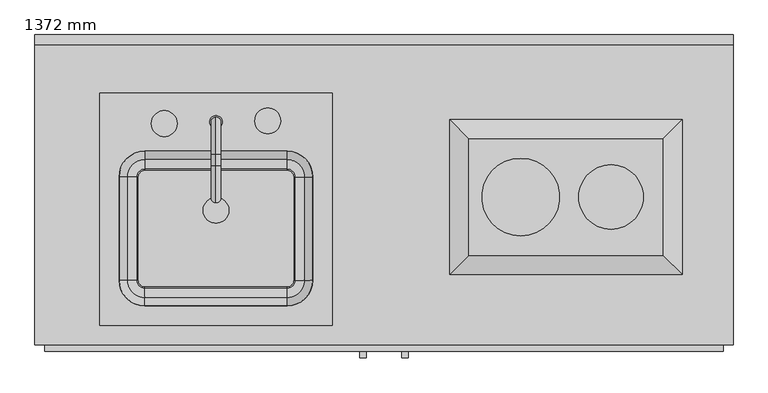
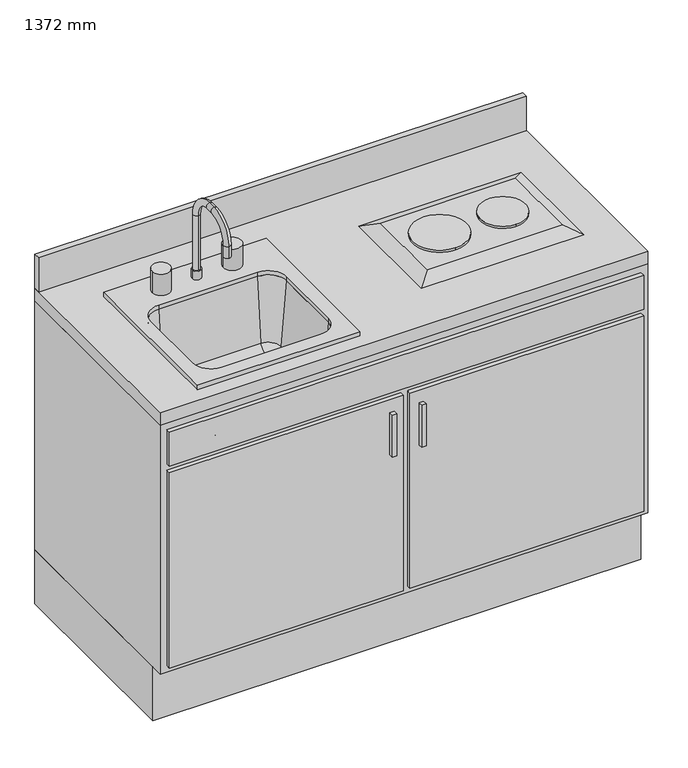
"""IFC4 building model written with IfcOpenShell, lengths in millimetres: proxy geometry, Kitchenette - Petite : 1372 mm."""

from ifc_helpers import new_model, si_unit, point, frame, frame_2d, origin, origin_with_axes, place, context, project, spatial, polyline, circle_curve, ellipse_curve, trimmed, segment, composite_curve, outline, extrude, faceted_brep, source, transform, mapped, element, save
from ifc_brep_helpers import plane_surface, cylinder_surface, revolved_surface, advanced_brep


def proxy_1372_mm_bcc99ffe(model_context):
    return source(origin(), model_context, "Body", "SolidModel", [
        extrude(outline(composite_curve([segment(trimmed(circle_curve(frame_2d((287.2252049, -319.05)), 76.2), [point((287.2252049, -242.85))], [point((287.2252049, -395.25))], False, "CARTESIAN"), True, "CONTINUOUS"), segment(trimmed(circle_curve(frame_2d((287.2252049, -319.05)), 76.2), [point((287.2252049, -395.25))], [point((287.2252049, -242.85))], False, "CARTESIAN"), True, "CONTINUOUS")], self_intersect=False)), frame((0.0, 0.0, 957.15), z_axis=(0.0, 0.0, 1.0), x_axis=(1.0, 0.0, 0.0)), (0.0, 0.0, 1.0), 6.35),
        extrude(outline(composite_curve([segment(trimmed(circle_curve(frame_2d((464.8252049, -319.05)), 63.5), [point((464.8252049, -255.55))], [point((464.8252049, -382.55))], False, "CARTESIAN"), True, "CONTINUOUS"), segment(trimmed(circle_curve(frame_2d((464.8252049, -319.05)), 63.5), [point((464.8252049, -382.55))], [point((464.8252049, -255.55))], False, "CARTESIAN"), True, "CONTINUOUS")], self_intersect=False)), frame((0.0, 0.0, 957.15), z_axis=(0.0, 0.0, 1.0), x_axis=(1.0, 0.0, 0.0)), (0.0, 0.0, 1.0), 6.35),
        faceted_brep([(185.6252049, -204.65, 957.15), (185.6252049, -433.55, 957.15), (566.4252049, -433.55, 957.15), (566.4252049, -204.65, 957.15), (147.5252049, -166.55, 938.1), (604.5252049, -166.55, 938.1), (604.5252049, -471.55, 938.1), (147.5252049, -471.55, 938.1)], [[[0, 1, 2, 3]], [[4, 5, 6, 7]], [[4, 7, 1, 0]], [[7, 6, 2, 1]], [[6, 5, 3, 2]], [[5, 4, 0, 3]]]),
        extrude(outline(composite_curve([segment(trimmed(circle_curve(frame_2d((-311.4622951, -171.45)), 12.7), [point((-324.1622951, -171.45))], [point((-298.7622951, -171.45))], False, "CARTESIAN"), True, "CONTINUOUS"), segment(trimmed(circle_curve(frame_2d((-311.4622951, -171.45)), 12.7), [point((-298.7622951, -171.45))], [point((-324.1622951, -171.45))], False, "CARTESIAN"), True, "CONTINUOUS")], self_intersect=False)), frame((0.0, 0.0, 950.8), z_axis=(0.0, 0.0, 1.0), x_axis=(1.0, 0.0, 0.0)), (0.0, 0.0, 1.0), 25.4),
        advanced_brep(
        [(-311.4622951, -161.925, 950.8), (-311.4622951, -180.975, 950.8), (-311.4622951, -161.925, 1138.125), (-311.4622951, -180.975, 1138.125), (-311.4622951, -234.95, 1192.1), (-311.4622951, -234.95, 1211.15), (-311.4622951, -257.175, 1211.15), (-311.4622951, -257.175, 1192.1), (-311.4622951, -311.15, 1138.125), (-311.4622951, -330.2, 1138.125), (-311.4622951, -330.2, 1103.2), (-311.4622951, -311.15, 1103.2)],
        [
            (0, 1, circle_curve(frame((-311.4622951, -171.45, 950.8), z_axis=(0.0, 0.0, -1.0), x_axis=(0.0, -1.0, 0.0)), 9.525)),
            (1, 0, circle_curve(frame((-311.4622951, -171.45, 950.8), z_axis=(0.0, 0.0, -1.0), x_axis=(0.0, -1.0, 0.0)), 9.525)),
            (0, 2),
            (2, 3, circle_curve(frame((-311.4622951, -171.45, 1138.125), z_axis=(0.0, 0.0, -1.0), x_axis=(0.0, -1.0, 0.0)), 9.525)),
            (3, 1),
            (3, 2, circle_curve(frame((-311.4622951, -171.45, 1138.125), z_axis=(0.0, 0.0, -1.0), x_axis=(0.0, -1.0, 0.0)), 9.525)),
            (4, 3, circle_curve(frame((-311.4622951, -234.95, 1138.125), z_axis=(-1.0, 0.0, 0.0), x_axis=(0.0, 1.0, 0.0)), 53.975)),
            (2, 5, circle_curve(frame((-311.4622951, -234.95, 1138.125), z_axis=(1.0, 0.0, 0.0), x_axis=(0.0, 1.0, 0.0)), 73.025)),
            (5, 4, circle_curve(frame((-311.4622951, -234.95, 1201.625), z_axis=(0.0, 1.0, 0.0), x_axis=(0.0, 0.0, -1.0)), 9.525)),
            (4, 5, circle_curve(frame((-311.4622951, -234.95, 1201.625), z_axis=(0.0, 1.0, 0.0), x_axis=(0.0, 0.0, -1.0)), 9.525)),
            (5, 6),
            (6, 7, circle_curve(frame((-311.4622951, -257.175, 1201.625), z_axis=(0.0, 1.0, 0.0), x_axis=(0.0, 0.0, -1.0)), 9.525)),
            (7, 4),
            (7, 6, circle_curve(frame((-311.4622951, -257.175, 1201.625), z_axis=(0.0, 1.0, 0.0), x_axis=(0.0, 0.0, -1.0)), 9.525)),
            (8, 7, circle_curve(frame((-311.4622951, -257.175, 1138.125), z_axis=(-1.0, 0.0, 0.0), x_axis=(0.0, 0.0, 1.0)), 53.975)),
            (6, 9, circle_curve(frame((-311.4622951, -257.175, 1138.125), z_axis=(1.0, 0.0, 0.0), x_axis=(0.0, 0.0, 1.0)), 73.025)),
            (9, 8, circle_curve(frame((-311.4622951, -320.675, 1138.125), z_axis=(0.0, 0.0, 1.0), x_axis=(0.0, 1.0, 0.0)), 9.525)),
            (8, 9, circle_curve(frame((-311.4622951, -320.675, 1138.125), z_axis=(0.0, 0.0, 1.0), x_axis=(0.0, 1.0, 0.0)), 9.525)),
            (10, 11, circle_curve(frame((-311.4622951, -320.675, 1103.2), z_axis=(0.0, 0.0, -1.0), x_axis=(0.0, 1.0, 0.0)), 9.525)),
            (11, 10, circle_curve(frame((-311.4622951, -320.675, 1103.2), z_axis=(0.0, 0.0, -1.0), x_axis=(0.0, 1.0, 0.0)), 9.525)),
            (9, 10),
            (11, 8),
        ],
        [
            plane_surface(frame((-311.4622951, -180.975, 950.8), z_axis=(0.0, 0.0, -1.0), x_axis=(1.0, 0.0, 0.0))),
            cylinder_surface(frame((-311.4622951, -171.45, 950.8), z_axis=(0.0, 0.0, -1.0), x_axis=(0.0, -1.0, 0.0)), 9.525),
            revolved_surface(trimmed(ellipse_curve(frame((-311.4622951, -171.45, 1138.125), z_axis=(0.0, 0.0, -1.0), x_axis=(0.0, -1.0, 0.0)), 9.525, 9.525), [point((-311.4622951, -161.925, 1138.125))], [point((-311.4622951, -180.975, 1138.125))], True, "CARTESIAN"), (-311.4622951, -234.95, 1138.125), (1.0, 0.0, 0.0)),
            revolved_surface(trimmed(ellipse_curve(frame((-311.4622951, -171.45, 1138.125), z_axis=(0.0, 0.0, -1.0), x_axis=(0.0, -1.0, 0.0)), 9.525, 9.525), [point((-311.4622951, -180.975, 1138.125))], [point((-311.4622951, -161.925, 1138.125))], True, "CARTESIAN"), (-311.4622951, -234.95, 1138.125), (1.0, 0.0, 0.0)),
            cylinder_surface(frame((-311.4622951, -234.95, 1201.625), z_axis=(0.0, 1.0, 0.0), x_axis=(0.0, 0.0, -1.0)), 9.525),
            revolved_surface(trimmed(ellipse_curve(frame((-311.4622951, -257.175, 1201.625), z_axis=(0.0, 1.0, 0.0), x_axis=(0.0, 0.0, -1.0)), 9.525, 9.525), [point((-311.4622951, -257.175, 1211.15))], [point((-311.4622951, -257.175, 1192.1))], True, "CARTESIAN"), (-311.4622951, -257.175, 1138.125), (1.0, 0.0, 0.0)),
            revolved_surface(trimmed(ellipse_curve(frame((-311.4622951, -257.175, 1201.625), z_axis=(0.0, 1.0, 0.0), x_axis=(0.0, 0.0, -1.0)), 9.525, 9.525), [point((-311.4622951, -257.175, 1192.1))], [point((-311.4622951, -257.175, 1211.15))], True, "CARTESIAN"), (-311.4622951, -257.175, 1138.125), (1.0, 0.0, 0.0)),
            plane_surface(frame((-311.4622951, -330.2, 1103.2), z_axis=(0.0, 0.0, -1.0), x_axis=(-1.0, 0.0, 0.0))),
            cylinder_surface(frame((-311.4622951, -320.675, 1138.125), z_axis=(0.0, 0.0, 1.0), x_axis=(0.0, 1.0, 0.0)), 9.525),
        ],
        [
            (0, [[1, 2]]),
            (1, [[-1, 3, 4, 5]]),
            (1, [[-2, -5, 6, -3]]),
            (2, [[7, -4, 8, 9]]),
            (3, [[-8, -6, -7, 10]]),
            (4, [[-9, 11, 12, 13]]),
            (4, [[-10, -13, 14, -11]]),
            (5, [[15, -12, 16, 17]]),
            (6, [[-16, -14, -15, 18]]),
            (7, [[19, 20]]),
            (8, [[-17, 21, -20, 22]]),
            (8, [[-18, -22, -19, -21]]),
        ],
    ),
        extrude(outline(composite_curve([segment(trimmed(circle_curve(frame_2d((-413.0622951, -174.5287936)), 25.4), [point((-438.4622951, -174.5287936))], [point((-387.6622951, -174.5287936))], False, "CARTESIAN"), True, "CONTINUOUS"), segment(trimmed(circle_curve(frame_2d((-413.0622951, -174.5287936)), 25.4), [point((-387.6622951, -174.5287936))], [point((-438.4622951, -174.5287936))], False, "CARTESIAN"), True, "CONTINUOUS")], self_intersect=False)), frame((0.0, 0.0, 950.8), z_axis=(0.0, 0.0, 1.0), x_axis=(1.0, 0.0, 0.0)), (0.0, 0.0, 1.0), 63.5),
        extrude(outline(composite_curve([segment(trimmed(circle_curve(frame_2d((-209.8622951, -169.3320688)), 25.4), [point((-235.2622951, -169.3320688))], [point((-184.4622951, -169.3320688))], False, "CARTESIAN"), True, "CONTINUOUS"), segment(trimmed(circle_curve(frame_2d((-209.8622951, -169.3320688)), 25.4), [point((-184.4622951, -169.3320688))], [point((-235.2622951, -169.3320688))], False, "CARTESIAN"), True, "CONTINUOUS")], self_intersect=False)), frame((0.0, 0.0, 950.8), z_axis=(0.0, 0.0, 1.0), x_axis=(1.0, 0.0, 0.0)), (0.0, 0.0, 1.0), 63.5),
        extrude(outline(composite_curve([segment(trimmed(circle_curve(frame_2d((-171.7622951, -279.4)), 12.7), [point((-171.7622951, -266.7))], [point((-159.0622951, -279.4))], False, "CARTESIAN"), True, "CONTINUOUS"), segment(polyline([(-159.0622951, -279.4), (-159.0622951, -482.6)]), True, "CONTINUOUS"), segment(trimmed(circle_curve(frame_2d((-171.7622951, -482.6)), 12.7), [point((-159.0622951, -482.6))], [point((-171.7622951, -495.3))], False, "CARTESIAN"), True, "CONTINUOUS"), segment(polyline([(-171.7622951, -495.3), (-451.1622951, -495.3)]), True, "CONTINUOUS"), segment(trimmed(circle_curve(frame_2d((-451.1622951, -482.6)), 12.7), [point((-451.1622951, -495.3))], [point((-463.8622951, -482.6))], False, "CARTESIAN"), True, "CONTINUOUS"), segment(polyline([(-463.8622951, -482.6), (-463.8622951, -279.4)]), True, "CONTINUOUS"), segment(trimmed(circle_curve(frame_2d((-451.1622951, -279.4)), 12.7), [point((-463.8622951, -279.4))], [point((-451.1622951, -266.7))], False, "CARTESIAN"), True, "CONTINUOUS"), segment(polyline([(-451.1622951, -266.7), (-171.7622951, -266.7)]), True, "CONTINUOUS")], self_intersect=False), holes=[composite_curve([segment(trimmed(circle_curve(frame_2d((-311.4622951, -345.2454011)), 25.4), [point((-336.8622951, -345.2454011))], [point((-286.0622951, -345.2454011))], True, "CARTESIAN"), True, "CONTINUOUS"), segment(trimmed(circle_curve(frame_2d((-311.4622951, -345.2454011)), 25.4), [point((-286.0622951, -345.2454011))], [point((-336.8622951, -345.2454011))], True, "CARTESIAN"), True, "CONTINUOUS")], self_intersect=False)]), frame((0.0, 0.0, 722.2), z_axis=(0.0, 0.0, 1.0), x_axis=(1.0, 0.0, 0.0)), (0.0, 0.0, 1.0), 9.525),
        advanced_brep(
        [(-114.6122951, -279.4, 722.2), (-171.7622951, -222.25, 722.2), (-171.7622951, -222.25, 938.1), (-114.6122951, -279.4, 938.1), (-159.0622951, -279.4, 722.2), (-171.7622951, -266.7, 722.2), (-159.0622951, -279.4, 731.725), (-171.7622951, -266.7, 731.725), (-156.4738769, -279.4, 731.725), (-171.7622951, -264.1115818, 731.725), (-137.4963679, -279.4, 749.1146831), (-171.7622951, -245.1340728, 749.1146831), (-120.9622951, -279.4, 938.1), (-171.7622951, -228.6, 938.1), (-114.6122951, -482.6, 938.1), (-114.6122951, -482.6, 722.2), (-159.0622951, -482.6, 722.2), (-159.0622951, -482.6, 731.725), (-156.4738769, -482.6, 731.725), (-137.4963679, -482.6, 749.1146831), (-120.9622951, -482.6, 938.1), (-171.7622951, -539.75, 722.2), (-171.7622951, -539.75, 938.1), (-171.7622951, -495.3, 722.2), (-171.7622951, -495.3, 731.725), (-171.7622951, -497.8884182, 731.725), (-171.7622951, -516.8659272, 749.1146831), (-171.7622951, -533.4, 938.1), (-451.1622951, -539.75, 938.1), (-451.1622951, -539.75, 722.2), (-451.1622951, -495.3, 722.2), (-451.1622951, -495.3, 731.725), (-451.1622951, -497.8884182, 731.725), (-451.1622951, -516.8659272, 749.1146831), (-451.1622951, -533.4, 938.1), (-508.3122951, -482.6, 722.2), (-508.3122951, -482.6, 938.1), (-463.8622951, -482.6, 722.2), (-463.8622951, -482.6, 731.725), (-466.4507133, -482.6, 731.725), (-485.4282223, -482.6, 749.1146831), (-501.9622951, -482.6, 938.1), (-508.3122951, -279.4, 938.1), (-508.3122951, -279.4, 722.2), (-463.8622951, -279.4, 722.2), (-463.8622951, -279.4, 731.725), (-466.4507133, -279.4, 731.725), (-485.4282223, -279.4, 749.1146831), (-501.9622951, -279.4, 938.1), (-451.1622951, -222.25, 722.2), (-451.1622951, -222.25, 938.1), (-451.1622951, -266.7, 722.2), (-451.1622951, -266.7, 731.725), (-451.1622951, -264.1115818, 731.725), (-451.1622951, -245.1340728, 749.1146831), (-451.1622951, -228.6, 938.1)],
        [
            (0, 1, circle_curve(frame((-171.7622951, -279.4, 722.2), z_axis=(0.0, 0.0, 1.0), x_axis=(0.0, 1.0, 0.0)), 57.15)),
            (1, 2),
            (2, 3, circle_curve(frame((-171.7622951, -279.4, 938.1), z_axis=(0.0, 0.0, -1.0), x_axis=(0.0, 1.0, 0.0)), 57.15)),
            (3, 0),
            (4, 5, circle_curve(frame((-171.7622951, -279.4, 722.2), z_axis=(0.0, 0.0, 1.0), x_axis=(0.0, 1.0, 0.0)), 12.7)),
            (5, 1),
            (0, 4),
            (6, 7, circle_curve(frame((-171.7622951, -279.4, 731.725), z_axis=(0.0, 0.0, 1.0), x_axis=(0.0, 1.0, 0.0)), 12.7)),
            (7, 5),
            (4, 6),
            (8, 9, circle_curve(frame((-171.7622951, -279.4, 731.725), z_axis=(0.0, 0.0, 1.0), x_axis=(0.0, 1.0, 0.0)), 15.2884182)),
            (9, 7),
            (6, 8),
            (10, 11, circle_curve(frame((-171.7622951, -279.4, 749.1146831), z_axis=(0.0, 0.0, 1.0), x_axis=(0.0, 1.0, 0.0)), 34.2659272)),
            (11, 9, circle_curve(frame((-171.7622951, -264.1115818, 750.775), z_axis=(-1.0, 0.0, 0.0), x_axis=(0.0, 1.0, 0.0)), 19.05)),
            (8, 10, circle_curve(frame((-156.4738769, -279.4, 750.775), z_axis=(0.0, -1.0, 0.0), x_axis=(1.0, 0.0, 0.0)), 19.05)),
            (12, 13, circle_curve(frame((-171.7622951, -279.4, 938.1), z_axis=(0.0, 0.0, 1.0), x_axis=(0.0, 1.0, 0.0)), 50.8)),
            (13, 11),
            (10, 12),
            (2, 13),
            (12, 3),
            (3, 14),
            (14, 15),
            (15, 0),
            (15, 16),
            (16, 4),
            (16, 17),
            (17, 6),
            (17, 18),
            (18, 8),
            (18, 19, circle_curve(frame((-156.4738769, -482.6, 750.775), z_axis=(0.0, -1.0, 0.0), x_axis=(1.0, 0.0, 0.0)), 19.05)),
            (19, 10),
            (19, 20),
            (20, 12),
            (20, 14),
            (21, 15, circle_curve(frame((-171.7622951, -482.6, 722.2), z_axis=(0.0, 0.0, 1.0), x_axis=(1.0, 0.0, 0.0)), 57.15)),
            (14, 22, circle_curve(frame((-171.7622951, -482.6, 938.1), z_axis=(0.0, 0.0, -1.0), x_axis=(1.0, 0.0, 0.0)), 57.15)),
            (22, 21),
            (23, 16, circle_curve(frame((-171.7622951, -482.6, 722.2), z_axis=(0.0, 0.0, 1.0), x_axis=(1.0, 0.0, 0.0)), 12.7)),
            (21, 23),
            (24, 17, circle_curve(frame((-171.7622951, -482.6, 731.725), z_axis=(0.0, 0.0, 1.0), x_axis=(1.0, 0.0, 0.0)), 12.7)),
            (23, 24),
            (25, 18, circle_curve(frame((-171.7622951, -482.6, 731.725), z_axis=(0.0, 0.0, 1.0), x_axis=(1.0, 0.0, 0.0)), 15.2884182)),
            (24, 25),
            (26, 19, circle_curve(frame((-171.7622951, -482.6, 749.1146831), z_axis=(0.0, 0.0, 1.0), x_axis=(1.0, 0.0, 0.0)), 34.2659272)),
            (25, 26, circle_curve(frame((-171.7622951, -497.8884182, 750.775), z_axis=(-1.0, 0.0, 0.0), x_axis=(0.0, -1.0, 0.0)), 19.05)),
            (27, 20, circle_curve(frame((-171.7622951, -482.6, 938.1), z_axis=(0.0, 0.0, 1.0), x_axis=(1.0, 0.0, 0.0)), 50.8)),
            (26, 27),
            (27, 22),
            (22, 28),
            (28, 29),
            (29, 21),
            (29, 30),
            (30, 23),
            (30, 31),
            (31, 24),
            (31, 32),
            (32, 25),
            (32, 33, circle_curve(frame((-451.1622951, -497.8884182, 750.775), z_axis=(-1.0, 0.0, 0.0), x_axis=(0.0, -1.0, 0.0)), 19.05)),
            (33, 26),
            (33, 34),
            (34, 27),
            (34, 28),
            (35, 29, circle_curve(frame((-451.1622951, -482.6, 722.2), z_axis=(0.0, 0.0, 1.0), x_axis=(0.0, -1.0, 0.0)), 57.15)),
            (28, 36, circle_curve(frame((-451.1622951, -482.6, 938.1), z_axis=(0.0, 0.0, -1.0), x_axis=(0.0, -1.0, 0.0)), 57.15)),
            (36, 35),
            (37, 30, circle_curve(frame((-451.1622951, -482.6, 722.2), z_axis=(0.0, 0.0, 1.0), x_axis=(0.0, -1.0, 0.0)), 12.7)),
            (35, 37),
            (38, 31, circle_curve(frame((-451.1622951, -482.6, 731.725), z_axis=(0.0, 0.0, 1.0), x_axis=(0.0, -1.0, 0.0)), 12.7)),
            (37, 38),
            (39, 32, circle_curve(frame((-451.1622951, -482.6, 731.725), z_axis=(0.0, 0.0, 1.0), x_axis=(0.0, -1.0, 0.0)), 15.2884182)),
            (38, 39),
            (40, 33, circle_curve(frame((-451.1622951, -482.6, 749.1146831), z_axis=(0.0, 0.0, 1.0), x_axis=(0.0, -1.0, 0.0)), 34.2659272)),
            (39, 40, circle_curve(frame((-466.4507133, -482.6, 750.775), z_axis=(0.0, 1.0, 0.0), x_axis=(-1.0, 0.0, 0.0)), 19.05)),
            (41, 34, circle_curve(frame((-451.1622951, -482.6, 938.1), z_axis=(0.0, 0.0, 1.0), x_axis=(0.0, -1.0, 0.0)), 50.8)),
            (40, 41),
            (41, 36),
            (36, 42),
            (42, 43),
            (43, 35),
            (43, 44),
            (44, 37),
            (44, 45),
            (45, 38),
            (45, 46),
            (46, 39),
            (46, 47, circle_curve(frame((-466.4507133, -279.4, 750.775), z_axis=(0.0, 1.0, 0.0), x_axis=(-1.0, 0.0, 0.0)), 19.05)),
            (47, 40),
            (47, 48),
            (48, 41),
            (48, 42),
            (49, 43, circle_curve(frame((-451.1622951, -279.4, 722.2), z_axis=(0.0, 0.0, 1.0), x_axis=(-1.0, 0.0, 0.0)), 57.15)),
            (42, 50, circle_curve(frame((-451.1622951, -279.4, 938.1), z_axis=(0.0, 0.0, -1.0), x_axis=(-1.0, 0.0, 0.0)), 57.15)),
            (50, 49),
            (51, 44, circle_curve(frame((-451.1622951, -279.4, 722.2), z_axis=(0.0, 0.0, 1.0), x_axis=(-1.0, 0.0, 0.0)), 12.7)),
            (49, 51),
            (52, 45, circle_curve(frame((-451.1622951, -279.4, 731.725), z_axis=(0.0, 0.0, 1.0), x_axis=(-1.0, 0.0, 0.0)), 12.7)),
            (51, 52),
            (53, 46, circle_curve(frame((-451.1622951, -279.4, 731.725), z_axis=(0.0, 0.0, 1.0), x_axis=(-1.0, 0.0, 0.0)), 15.2884182)),
            (52, 53),
            (54, 47, circle_curve(frame((-451.1622951, -279.4, 749.1146831), z_axis=(0.0, 0.0, 1.0), x_axis=(-1.0, 0.0, 0.0)), 34.2659272)),
            (53, 54, circle_curve(frame((-451.1622951, -264.1115818, 750.775), z_axis=(1.0, 0.0, 0.0), x_axis=(0.0, 1.0, 0.0)), 19.05)),
            (55, 48, circle_curve(frame((-451.1622951, -279.4, 938.1), z_axis=(0.0, 0.0, 1.0), x_axis=(-1.0, 0.0, 0.0)), 50.8)),
            (54, 55),
            (55, 50),
            (50, 2),
            (1, 49),
            (5, 51),
            (7, 52),
            (9, 53),
            (11, 54),
            (13, 55),
        ],
        [
            cylinder_surface(frame((-171.7622951, -279.4, 23.7), z_axis=(0.0, 0.0, -1.0), x_axis=(0.0, 1.0, 0.0)), 57.15),
            plane_surface(frame((-171.7622951, -279.4, 722.2), z_axis=(0.0, 0.0, -1.0), x_axis=(0.0, 1.0, 0.0))),
            revolved_surface(polyline([(-171.7622951, -266.7, 722.2), (-171.7622951, -266.7, 731.725)]), (-171.7622951, -279.4, 23.7), (0.0, 0.0, -1.0)),
            plane_surface(frame((-171.7622951, -279.4, 731.725), z_axis=(0.0, 0.0, 1.0), x_axis=(0.0, 1.0, 0.0))),
            revolved_surface(trimmed(ellipse_curve(frame((-171.7622951, -264.1115818, 750.775), z_axis=(1.0, 0.0, 0.0), x_axis=(0.0, 1.0, 0.0)), 19.05, 19.05), [point((-171.7622951, -264.1115818, 731.725))], [point((-171.7622951, -245.1340728, 749.1146831))], True, "CARTESIAN"), (-171.7622951, -279.4, 23.7), (0.0, 0.0, -1.0)),
            revolved_surface(polyline([(-171.7622951, -245.1340728, 749.1146831), (-171.7622951, -228.6, 938.1)]), (-171.7622951, -279.4, 23.7), (0.0, 0.0, -1.0)),
            plane_surface(frame((-171.7622951, -279.4, 938.1), z_axis=(0.0, 0.0, 1.0), x_axis=(0.0, 1.0, 0.0))),
            plane_surface(frame((-114.6122951, -279.4, 938.1), z_axis=(1.0, 0.0, 0.0), x_axis=(0.0, -1.0, 0.0))),
            plane_surface(frame((-114.6122951, -279.4, 722.2), z_axis=(0.0, 0.0, -1.0), x_axis=(0.0, -1.0, 0.0))),
            plane_surface(frame((-159.0622951, -279.4, 722.2), z_axis=(-1.0, 0.0, 0.0), x_axis=(0.0, -1.0, 0.0))),
            plane_surface(frame((-159.0622951, -279.4, 731.725), z_axis=(0.0, 0.0, 1.0), x_axis=(0.0, -1.0, 0.0))),
            revolved_surface(polyline([(-137.42387689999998, -482.6, 750.775), (-137.42387689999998, -279.4, 750.775)]), (-156.4738769, -279.4, 750.775), (0.0, -1.0, 0.0)),
            plane_surface(frame((-137.4963679, -279.4, 749.1146831), z_axis=(-0.9961946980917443, 0.0, 0.08715574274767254), x_axis=(0.0, -1.0, 0.0))),
            plane_surface(frame((-120.9622951, -279.4, 938.1), z_axis=(0.0, 0.0, 1.0), x_axis=(0.0, -1.0, 0.0))),
            cylinder_surface(frame((-171.7622951, -482.6, 23.7), z_axis=(0.0, 0.0, -1.0), x_axis=(1.0, 0.0, 0.0)), 57.15),
            plane_surface(frame((-171.7622951, -482.6, 722.2), z_axis=(0.0, 0.0, -1.0), x_axis=(1.0, 0.0, 0.0))),
            revolved_surface(polyline([(-159.0622951, -482.6, 722.2), (-159.0622951, -482.6, 731.725)]), (-171.7622951, -482.6, 23.7), (0.0, 0.0, -1.0)),
            plane_surface(frame((-171.7622951, -482.6, 731.725), z_axis=(0.0, 0.0, 1.0), x_axis=(1.0, 0.0, 0.0))),
            revolved_surface(trimmed(ellipse_curve(frame((-156.4738769, -482.6, 750.775), z_axis=(0.0, -1.0, 0.0), x_axis=(1.0, 0.0, 0.0)), 19.05, 19.05), [point((-156.4738769, -482.6, 731.725))], [point((-137.4963679, -482.6, 749.1146831))], True, "CARTESIAN"), (-171.7622951, -482.6, 23.7), (0.0, 0.0, -1.0)),
            revolved_surface(polyline([(-137.4963679, -482.6, 749.1146831), (-120.9622951, -482.6, 938.1)]), (-171.7622951, -482.6, 23.7), (0.0, 0.0, -1.0)),
            plane_surface(frame((-171.7622951, -482.6, 938.1), z_axis=(0.0, 0.0, 1.0), x_axis=(1.0, 0.0, 0.0))),
            plane_surface(frame((-171.7622951, -539.75, 938.1), z_axis=(0.0, -1.0, 0.0), x_axis=(-1.0, 0.0, 0.0))),
            plane_surface(frame((-171.7622951, -539.75, 722.2), z_axis=(0.0, 0.0, -1.0), x_axis=(-1.0, 0.0, 0.0))),
            plane_surface(frame((-171.7622951, -495.3, 722.2), z_axis=(0.0, 1.0, 0.0), x_axis=(-1.0, 0.0, 0.0))),
            plane_surface(frame((-171.7622951, -495.3, 731.725), z_axis=(0.0, 0.0, 1.0), x_axis=(-1.0, 0.0, 0.0))),
            revolved_surface(polyline([(-451.16229509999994, -516.9384182, 750.775), (-171.7622951, -516.9384182, 750.775)]), (-171.7622951, -497.8884182, 750.775), (-1.0, 0.0, 0.0)),
            plane_surface(frame((-171.7622951, -516.8659272, 749.1146831), z_axis=(0.0, 0.9961946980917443, 0.08715574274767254), x_axis=(-1.0, 0.0, 0.0))),
            plane_surface(frame((-171.7622951, -533.4, 938.1), z_axis=(0.0, 0.0, 1.0), x_axis=(-1.0, 0.0, 0.0))),
            cylinder_surface(frame((-451.1622951, -482.6, 23.7), z_axis=(0.0, 0.0, -1.0), x_axis=(0.0, -1.0, 0.0)), 57.15),
            plane_surface(frame((-451.1622951, -482.6, 722.2), z_axis=(0.0, 0.0, -1.0), x_axis=(0.0, -1.0, 0.0))),
            revolved_surface(polyline([(-451.1622951, -495.3, 722.2), (-451.1622951, -495.3, 731.725)]), (-451.1622951, -482.6, 23.7), (0.0, 0.0, -1.0)),
            plane_surface(frame((-451.1622951, -482.6, 731.725), z_axis=(0.0, 0.0, 1.0), x_axis=(0.0, -1.0, 0.0))),
            revolved_surface(trimmed(ellipse_curve(frame((-451.1622951, -497.8884182, 750.775), z_axis=(-1.0, 0.0, 0.0), x_axis=(0.0, -1.0, 0.0)), 19.05, 19.05), [point((-451.1622951, -497.8884182, 731.725))], [point((-451.1622951, -516.8659272, 749.1146831))], True, "CARTESIAN"), (-451.1622951, -482.6, 23.7), (0.0, 0.0, -1.0)),
            revolved_surface(polyline([(-451.1622951, -516.8659272, 749.1146831), (-451.1622951, -533.4, 938.1)]), (-451.1622951, -482.6, 23.7), (0.0, 0.0, -1.0)),
            plane_surface(frame((-451.1622951, -482.6, 938.1), z_axis=(0.0, 0.0, 1.0), x_axis=(0.0, -1.0, 0.0))),
            plane_surface(frame((-508.3122951, -482.6, 938.1), z_axis=(-1.0, 0.0, 0.0), x_axis=(0.0, 1.0, 0.0))),
            plane_surface(frame((-508.3122951, -482.6, 722.2), z_axis=(0.0, 0.0, -1.0), x_axis=(0.0, 1.0, 0.0))),
            plane_surface(frame((-463.8622951, -482.6, 722.2), z_axis=(1.0, 0.0, 0.0), x_axis=(0.0, 1.0, 0.0))),
            plane_surface(frame((-463.8622951, -482.6, 731.725), z_axis=(0.0, 0.0, 1.0), x_axis=(0.0, 1.0, 0.0))),
            revolved_surface(polyline([(-485.50071330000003, -279.4, 750.775), (-485.50071330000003, -482.6, 750.775)]), (-466.4507133, -482.6, 750.775), (0.0, 1.0, 0.0)),
            plane_surface(frame((-485.4282223, -482.6, 749.1146831), z_axis=(0.9961946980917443, 0.0, 0.08715574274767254), x_axis=(0.0, 1.0, 0.0))),
            plane_surface(frame((-501.9622951, -482.6, 938.1), z_axis=(0.0, 0.0, 1.0), x_axis=(0.0, 1.0, 0.0))),
            cylinder_surface(frame((-451.1622951, -279.4, 23.7), z_axis=(0.0, 0.0, -1.0), x_axis=(-1.0, 0.0, 0.0)), 57.15),
            plane_surface(frame((-451.1622951, -279.4, 722.2), z_axis=(0.0, 0.0, -1.0), x_axis=(-1.0, 0.0, 0.0))),
            revolved_surface(polyline([(-463.8622951, -279.4, 722.2), (-463.8622951, -279.4, 731.725)]), (-451.1622951, -279.4, 23.7), (0.0, 0.0, -1.0)),
            plane_surface(frame((-451.1622951, -279.4, 731.725), z_axis=(0.0, 0.0, 1.0), x_axis=(-1.0, 0.0, 0.0))),
            revolved_surface(trimmed(ellipse_curve(frame((-466.4507133, -279.4, 750.775), z_axis=(0.0, 1.0, 0.0), x_axis=(-1.0, 0.0, 0.0)), 19.05, 19.05), [point((-466.4507133, -279.4, 731.725))], [point((-485.4282223, -279.4, 749.1146831))], True, "CARTESIAN"), (-451.1622951, -279.4, 23.7), (0.0, 0.0, -1.0)),
            revolved_surface(polyline([(-485.4282223, -279.4, 749.1146831), (-501.9622951, -279.4, 938.1)]), (-451.1622951, -279.4, 23.7), (0.0, 0.0, -1.0)),
            plane_surface(frame((-451.1622951, -279.4, 938.1), z_axis=(0.0, 0.0, 1.0), x_axis=(-1.0, 0.0, 0.0))),
            plane_surface(frame((-451.1622951, -222.25, 938.1), z_axis=(0.0, 1.0, 0.0), x_axis=(1.0, 0.0, 0.0))),
            plane_surface(frame((-451.1622951, -222.25, 722.2), z_axis=(0.0, 0.0, -1.0), x_axis=(1.0, 0.0, 0.0))),
            plane_surface(frame((-451.1622951, -266.7, 722.2), z_axis=(0.0, -1.0, 0.0), x_axis=(1.0, 0.0, 0.0))),
            plane_surface(frame((-451.1622951, -266.7, 731.725), z_axis=(0.0, 0.0, 1.0), x_axis=(1.0, 0.0, 0.0))),
            revolved_surface(polyline([(-171.76229510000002, -245.0615818, 750.775), (-451.1622951, -245.0615818, 750.775)]), (-451.1622951, -264.1115818, 750.775), (1.0, 0.0, 0.0)),
            plane_surface(frame((-451.1622951, -245.1340728, 749.1146831), z_axis=(0.0, -0.9961946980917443, 0.08715574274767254), x_axis=(1.0, 0.0, 0.0))),
            plane_surface(frame((-451.1622951, -228.6, 938.1), z_axis=(0.0, 0.0, 1.0), x_axis=(1.0, 0.0, 0.0))),
        ],
        [
            (0, [[1, 2, 3, 4]]),
            (1, [[5, 6, -1, 7]]),
            (2, [[8, 9, -5, 10]]),
            (3, [[11, 12, -8, 13]]),
            (4, [[14, 15, -11, 16]]),
            (5, [[17, 18, -14, 19]]),
            (6, [[-3, 20, -17, 21]]),
            (7, [[-4, 22, 23, 24]]),
            (8, [[-7, -24, 25, 26]]),
            (9, [[-10, -26, 27, 28]]),
            (10, [[-13, -28, 29, 30]]),
            (11, [[-16, -30, 31, 32]]),
            (12, [[-19, -32, 33, 34]]),
            (13, [[-21, -34, 35, -22]]),
            (14, [[36, -23, 37, 38]]),
            (15, [[39, -25, -36, 40]]),
            (16, [[41, -27, -39, 42]]),
            (17, [[43, -29, -41, 44]]),
            (18, [[45, -31, -43, 46]]),
            (19, [[47, -33, -45, 48]]),
            (20, [[-37, -35, -47, 49]]),
            (21, [[-38, 50, 51, 52]]),
            (22, [[-40, -52, 53, 54]]),
            (23, [[-42, -54, 55, 56]]),
            (24, [[-44, -56, 57, 58]]),
            (25, [[-46, -58, 59, 60]]),
            (26, [[-48, -60, 61, 62]]),
            (27, [[-49, -62, 63, -50]]),
            (28, [[64, -51, 65, 66]]),
            (29, [[67, -53, -64, 68]]),
            (30, [[69, -55, -67, 70]]),
            (31, [[71, -57, -69, 72]]),
            (32, [[73, -59, -71, 74]]),
            (33, [[75, -61, -73, 76]]),
            (34, [[-65, -63, -75, 77]]),
            (35, [[-66, 78, 79, 80]]),
            (36, [[-68, -80, 81, 82]]),
            (37, [[-70, -82, 83, 84]]),
            (38, [[-72, -84, 85, 86]]),
            (39, [[-74, -86, 87, 88]]),
            (40, [[-76, -88, 89, 90]]),
            (41, [[-77, -90, 91, -78]]),
            (42, [[92, -79, 93, 94]]),
            (43, [[95, -81, -92, 96]]),
            (44, [[97, -83, -95, 98]]),
            (45, [[99, -85, -97, 100]]),
            (46, [[101, -87, -99, 102]]),
            (47, [[103, -89, -101, 104]]),
            (48, [[-93, -91, -103, 105]]),
            (49, [[-94, 106, -2, 107]]),
            (50, [[-96, -107, -6, 108]]),
            (51, [[-98, -108, -9, 109]]),
            (52, [[-100, -109, -12, 110]]),
            (53, [[-102, -110, -15, 111]]),
            (54, [[-104, -111, -18, 112]]),
            (55, [[-105, -112, -20, -106]]),
        ],
    ),
        extrude(outline(polyline([(-82.8622951, -114.3), (-82.8622951, -571.5), (-540.0622951, -571.5), (-540.0622951, -114.3), (-82.8622951, -114.3)]), holes=[composite_curve([segment(polyline([(-171.7622951, -228.6), (-451.1622951, -228.6)]), True, "CONTINUOUS"), segment(trimmed(circle_curve(frame_2d((-451.1622951, -279.4)), 50.8), [point((-451.1622951, -228.6))], [point((-501.9622951, -279.4))], True, "CARTESIAN"), True, "CONTINUOUS"), segment(polyline([(-501.9622951, -279.4), (-501.9622951, -482.6)]), True, "CONTINUOUS"), segment(trimmed(circle_curve(frame_2d((-451.1622951, -482.6)), 50.8), [point((-501.9622951, -482.6))], [point((-451.1622951, -533.4))], True, "CARTESIAN"), True, "CONTINUOUS"), segment(polyline([(-451.1622951, -533.4), (-171.7622951, -533.4)]), True, "CONTINUOUS"), segment(trimmed(circle_curve(frame_2d((-171.7622951, -482.6)), 50.8), [point((-171.7622951, -533.4))], [point((-120.9622951, -482.6))], True, "CARTESIAN"), True, "CONTINUOUS"), segment(polyline([(-120.9622951, -482.6), (-120.9622951, -279.4)]), True, "CONTINUOUS"), segment(trimmed(circle_curve(frame_2d((-171.7622951, -279.4)), 50.8), [point((-120.9622951, -279.4))], [point((-171.7622951, -228.6))], True, "CARTESIAN"), True, "CONTINUOUS")], self_intersect=False)]), frame((0.0, 0.0, 938.1), z_axis=(0.0, 0.0, 1.0), x_axis=(1.0, 0.0, 0.0)), (0.0, 0.0, 1.0), 12.7),
        extrude(outline(polyline([(-667.2622951, 0.0), (704.7377049, 0.0), (704.7377049, -19.05), (-667.2622951, -19.05), (-667.2622951, 0.0)])), frame((0.0, 0.0, 938.1), z_axis=(0.0, 0.0, 1.0), x_axis=(1.0, 0.0, 0.0)), (0.0, 0.0, 1.0), 101.6),
        extrude(outline(polyline([(704.7377049, 0.0), (704.7377049, -610.0), (-667.2622951, -610.0), (-667.2622951, 0.0), (704.7377049, 0.0)]), holes=[composite_curve([segment(polyline([(-146.3622951, -139.7), (-476.5622951, -139.7)]), True, "CONTINUOUS"), segment(trimmed(circle_curve(frame_2d((-476.5622951, -190.5)), 50.8), [point((-476.5622951, -139.7))], [point((-527.3622951, -190.5))], True, "CARTESIAN"), True, "CONTINUOUS"), segment(polyline([(-527.3622951, -190.5), (-527.3622951, -495.3)]), True, "CONTINUOUS"), segment(trimmed(circle_curve(frame_2d((-476.5622951, -495.3)), 50.8), [point((-527.3622951, -495.3))], [point((-476.5622951, -546.1))], True, "CARTESIAN"), True, "CONTINUOUS"), segment(polyline([(-476.5622951, -546.1), (-146.3622951, -546.1)]), True, "CONTINUOUS"), segment(trimmed(circle_curve(frame_2d((-146.3622951, -495.3)), 50.8), [point((-146.3622951, -546.1))], [point((-95.5622951, -495.3))], True, "CARTESIAN"), True, "CONTINUOUS"), segment(polyline([(-95.5622951, -495.3), (-95.5622951, -190.5)]), True, "CONTINUOUS"), segment(trimmed(circle_curve(frame_2d((-146.3622951, -190.5)), 50.8), [point((-95.5622951, -190.5))], [point((-146.3622951, -139.7))], True, "CARTESIAN"), True, "CONTINUOUS")], self_intersect=False)]), frame((0.0, 0.0, 900.0), z_axis=(0.0, 0.0, 1.0), x_axis=(1.0, 0.0, 0.0)), (0.0, 0.0, 1.0), 38.1),
        extrude(outline(polyline([(-16.1872951, -635.4), (-28.8872951, -635.4), (-28.8872951, -622.7), (-16.1872951, -622.7), (-16.1872951, -635.4)])), frame((0.0, 0.0, 597.469895), z_axis=(0.0, 0.0, 1.0), x_axis=(1.0, 0.0, 0.0)), (0.0, 0.0, 1.0), 124.730105),
        extrude(outline(polyline([(66.3627049, -635.4), (53.6627049, -635.4), (53.6627049, -622.7), (66.3627049, -622.7), (66.3627049, -635.4)])), frame((0.0, 0.0, 597.469895), z_axis=(0.0, 0.0, 1.0), x_axis=(1.0, 0.0, 0.0)), (0.0, 0.0, 1.0), 124.730105),
        extrude(outline(polyline([(685.6877049, -19.05), (685.6877049, -590.95), (-648.2122951, -590.95), (-648.2122951, -19.05), (685.6877049, -19.05)])), frame((0.0, 0.0, 160.0), z_axis=(0.0, 0.0, 1.0), x_axis=(1.0, 0.0, 0.0)), (0.0, 0.0, 1.0), 19.05),
        faceted_brep([(685.6877049, -590.95, 900.0), (685.6877049, -590.95, 160.0), (-648.2122951, -590.95, 160.0), (-648.2122951, -590.95, 900.0), (704.7377049, -610.0, 900.0), (-667.2622951, -610.0, 900.0), (704.7377049, -610.0, 160.0), (-667.2622951, -610.0, 160.0), (-648.2122951, -19.05, 160.0), (-648.2122951, -19.05, 900.0), (-667.2622951, 0.0, 900.0), (-667.2622951, 0.0, 160.0), (685.6877049, -19.05, 160.0), (685.6877049, -19.05, 900.0), (704.7377049, 0.0, 900.0), (704.7377049, 0.0, 160.0)], [[[0, 1, 2, 3]], [[4, 0, 3, 5]], [[6, 4, 5, 7]], [[1, 6, 7, 2]], [[3, 2, 8, 9]], [[5, 3, 9, 10]], [[7, 5, 10, 11]], [[2, 7, 11, 8]], [[9, 8, 12, 13]], [[10, 9, 13, 14]], [[11, 10, 14, 15]], [[8, 11, 15, 12]], [[13, 12, 1, 0]], [[14, 13, 0, 4]], [[15, 14, 4, 6]], [[12, 15, 6, 1]]]),
        extrude(outline(polyline([(704.7377049, 0.0), (704.7377049, -575.0), (-667.2622951, -575.0), (-667.2622951, 0.0), (704.7377049, 0.0)])), origin_with_axes(), (0.0, 0.0, 1.0), 160.0),
        extrude(outline(polyline([(9.2127049, -622.7), (-648.2122951, -622.7), (-648.2122951, -610.0), (9.2127049, -610.0), (9.2127049, -622.7)])), frame((0.0, 0.0, 179.05), z_axis=(0.0, 0.0, 1.0), x_axis=(1.0, 0.0, 0.0)), (0.0, 0.0, 1.0), 581.25),
        extrude(outline(polyline([(685.6877049, -622.7), (28.2627049, -622.7), (28.2627049, -610.0), (685.6877049, -610.0), (685.6877049, -622.7)])), frame((0.0, 0.0, 179.05), z_axis=(0.0, 0.0, 1.0), x_axis=(1.0, 0.0, 0.0)), (0.0, 0.0, 1.0), 581.25),
        extrude(outline(polyline([(685.6877049, -622.7), (-648.2122951, -622.7), (-648.2122951, -610.0), (685.6877049, -610.0), (685.6877049, -622.7)])), frame((0.0, 0.0, 779.35), z_axis=(0.0, 0.0, 1.0), x_axis=(1.0, 0.0, 0.0)), (0.0, 0.0, 1.0), 101.6),
    ])


if __name__ == "__main__":
    model = new_model("IFC4")
    model_context = context("Model", 3, world=origin())
    ifc_project = project(units=[si_unit("LENGTHUNIT", "METRE", prefix="MILLI")], contexts=[model_context])
    site = spatial("IfcSite", under=ifc_project)
    building = spatial("IfcBuilding", under=site)
    placement = place(None, origin())
    proxy_1372_mm_shape = proxy_1372_mm_bcc99ffe(model_context)
    element("IfcBuildingElementProxy", 1, Name="Kitchenette - Petite : 1372 mm", ObjectType="Kitchenette - Petite : 1372 mm", at=placement, inside=building, context=model_context, shape_type="MappedRepresentation", body=[
        mapped(proxy_1372_mm_shape, transform((0.0, 0.0, 0.0), x_axis=(1.0, 0.0, 0.0), y_axis=(0.0, 1.0, 0.0), z_axis=(0.0, 0.0, 1.0))),
    ])
    save(model, "model.ifc")
